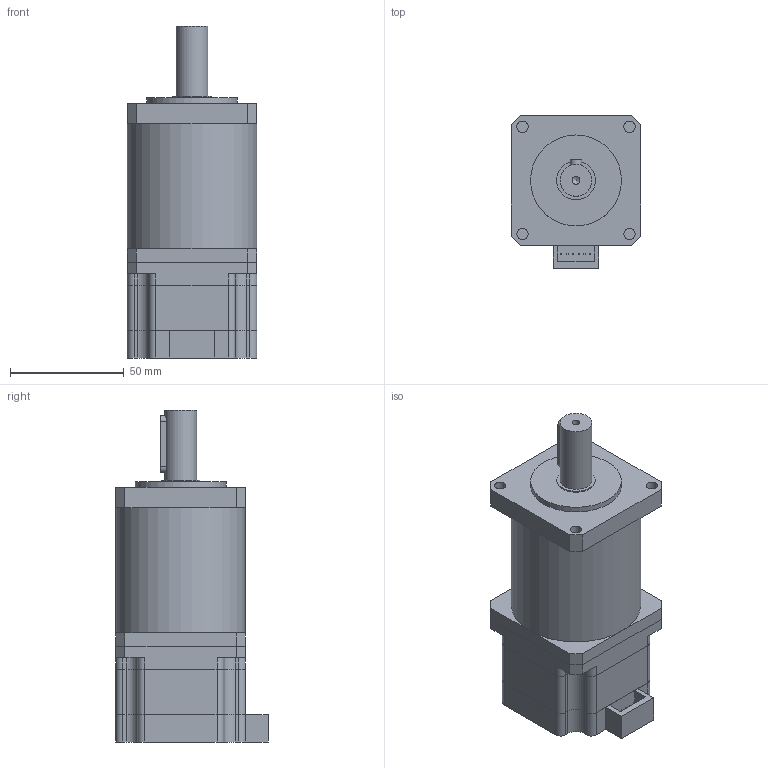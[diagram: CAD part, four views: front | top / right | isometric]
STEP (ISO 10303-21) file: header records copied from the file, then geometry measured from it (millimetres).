
FILE_DESCRIPTION(/* description */ (''),/* implementation_level */ '2;1');
FILE_NAME(/* name */ '57PG020-D42-0442.stp',/* time_stamp */ '2018-08-28T10:22:33+08:00',/* author */ (''),/* organization */ (''),/* preprocessor_version */ 'ST-DEVELOPER v11',/* originating_system */ 'SIEMENS UGS NX 6.0',/* authorisation */ '');
FILE_SCHEMA (('CONFIG_CONTROL_DESIGN'));
Length unit declared in the file: millimetre
Products named in the file (1): 57PG015-D42-0442
Bounding box: 57 x 67 x 146 mm (x, y, z)
Volume: 321205.9 mm3; surface area: 51485.3 mm2
Topology: 5 solids, 5 shells, 170 faces, 440 edges, 290 vertices
Faces by surface type: plane 122, cylinder 47, cone 1
Full cylindrical faces by diameter (mm): 3.5 x1, 5 x4, 14 x1, 17 x1, 40 x1, 57 x1
Entity records: 5194 total; most frequent: CARTESIAN_POINT 888, DIRECTION 870, ORIENTED_EDGE 856, EDGE_CURVE 428, LINE 328, VECTOR 328, VERTEX_POINT 289, AXIS2_PLACEMENT_3D 271
